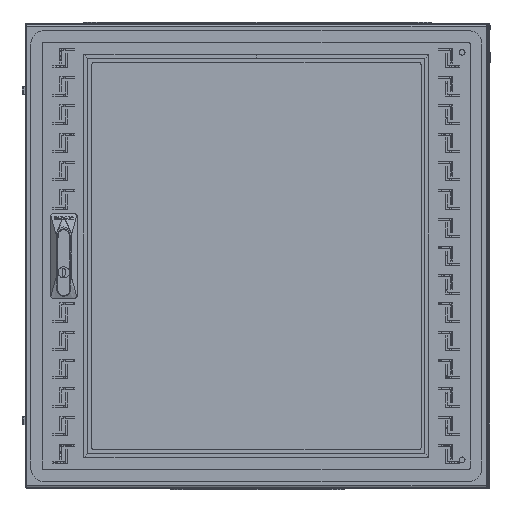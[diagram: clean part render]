
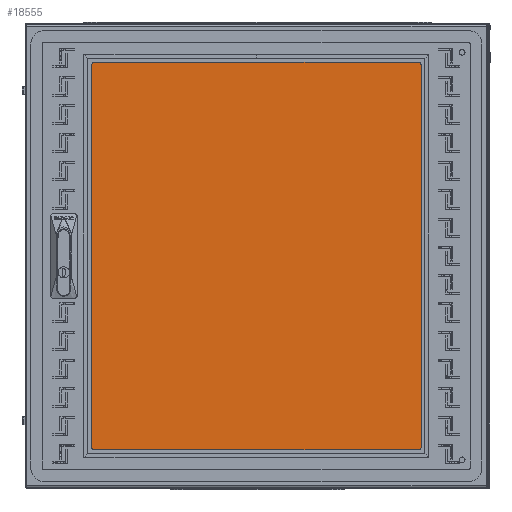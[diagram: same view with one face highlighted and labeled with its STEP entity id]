
A CAD part, top view. The second image highlights one B-rep face of the part: STEP entity #18555.
In plain terms, the highlighted planar face has unit normal (0, 0, 1) as drawn and (0, 0, -1) by its records, which use the part's own axes.
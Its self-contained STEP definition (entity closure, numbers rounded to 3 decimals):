
#4568 = PLANE ( 'NONE',  #95539 ) ;
#5417 = CARTESIAN_POINT ( 'NONE',  ( -217.5, -255., 0. ) ) ;
#10391 = VECTOR ( 'NONE', #135773, 1000. ) ;
#13878 = EDGE_CURVE ( 'NONE', #74100, #127037, #128144, .T. ) ;
#14924 = LINE ( 'NONE', #101584, #37617 ) ;
#15838 = DIRECTION ( 'NONE',  ( 0., 0., -1. ) ) ;
#18555 = ADVANCED_FACE ( 'NONE', ( #96921 ), #4568, .T. ) ;
#27373 = DIRECTION ( 'NONE',  ( 0., 1., 0. ) ) ;
#33668 = CARTESIAN_POINT ( 'NONE',  ( 217.5, 255., 0. ) ) ;
#37617 = VECTOR ( 'NONE', #68373, 1000. ) ;
#45419 = ORIENTED_EDGE ( 'NONE', *, *, #13878, .F. ) ;
#51641 = ORIENTED_EDGE ( 'NONE', *, *, #54398, .F. ) ;
#52236 = VECTOR ( 'NONE', #116722, 1000. ) ;
#54317 = EDGE_CURVE ( 'NONE', #127037, #99460, #95984, .T. ) ;
#54398 = EDGE_CURVE ( 'NONE', #99460, #82247, #111652, .T. ) ;
#55771 = ORIENTED_EDGE ( 'NONE', *, *, #54317, .F. ) ;
#60456 = CARTESIAN_POINT ( 'NONE',  ( 217.5, -255., 0. ) ) ;
#68373 = DIRECTION ( 'NONE',  ( 1., 0., 0. ) ) ;
#73968 = CARTESIAN_POINT ( 'NONE',  ( -217.5, -255., 0. ) ) ;
#74100 = VERTEX_POINT ( 'NONE', #110437 ) ;
#82247 = VERTEX_POINT ( 'NONE', #73968 ) ;
#84631 = ORIENTED_EDGE ( 'NONE', *, *, #118583, .F. ) ;
#91372 = CARTESIAN_POINT ( 'NONE',  ( -217.5, 255., 0. ) ) ;
#93446 = CARTESIAN_POINT ( 'NONE',  ( 0., 0., 0. ) ) ;
#93909 = DIRECTION ( 'NONE',  ( -1., 0., 0. ) ) ;
#95539 = AXIS2_PLACEMENT_3D ( 'NONE', #93446, #15838, #93909 ) ;
#95984 = LINE ( 'NONE', #91372, #10391 ) ;
#96921 = FACE_OUTER_BOUND ( 'NONE', #144848, .T. ) ;
#98434 = VECTOR ( 'NONE', #27373, 1000. ) ;
#99460 = VERTEX_POINT ( 'NONE', #113074 ) ;
#101584 = CARTESIAN_POINT ( 'NONE',  ( -217.5, -255., 0. ) ) ;
#110437 = CARTESIAN_POINT ( 'NONE',  ( 217.5, -255., 0. ) ) ;
#111652 = LINE ( 'NONE', #5417, #52236 ) ;
#113074 = CARTESIAN_POINT ( 'NONE',  ( -217.5, 255., 0. ) ) ;
#116722 = DIRECTION ( 'NONE',  ( 0., -1., 0. ) ) ;
#118583 = EDGE_CURVE ( 'NONE', #82247, #74100, #14924, .T. ) ;
#127037 = VERTEX_POINT ( 'NONE', #33668 ) ;
#128144 = LINE ( 'NONE', #60456, #98434 ) ;
#135773 = DIRECTION ( 'NONE',  ( -1., 0., 0. ) ) ;
#144848 = EDGE_LOOP ( 'NONE', ( #45419, #84631, #51641, #55771 ) ) ;
